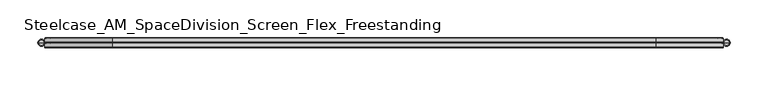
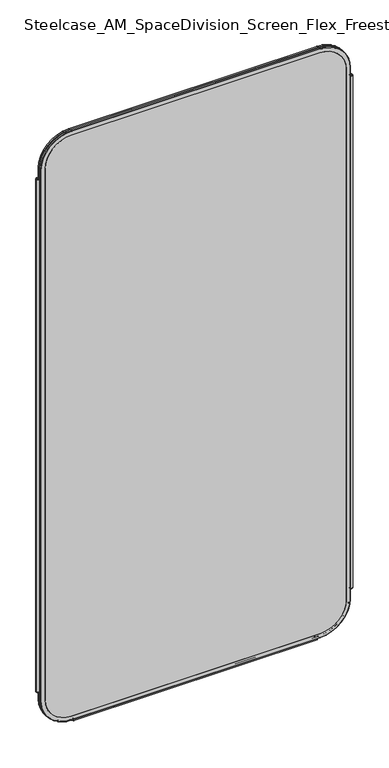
"""IFC4 building model written with IfcOpenShell, lengths in millimetres: furniture geometry, Steelcase_AM_SpaceDivision_Screen_Flex_Freestanding : 71H x 36W."""

from ifc_helpers import new_model, si_unit, point, frame, frame_2d, origin, place, context, project, spatial, polyline, circle_curve, ellipse_curve, trimmed, segment, composite_curve, outline, extrude, source, transform, mapped, element, save
from ifc_brep_helpers import plane_surface, cylinder_surface, revolved_surface, advanced_brep


def steelcase_am_spacedivision_screen_flex_freestanding_69d37450(model_context):
    return source(origin(), model_context, "Body", "SolidModel", [
        advanced_brep(
        [(913.13, 0.0, 1687.83), (906.5294661, 0.0, 1687.83), (909.829733, 0.0, 1687.83), (914.4, 0.0, 1686.56), (905.2594661, 0.0, 1686.56), (914.4, 0.0, 121.92), (905.2594661, 0.0, 121.92), (913.13, 0.0, 120.65), (906.5294661, 0.0, 120.65), (909.829733, 0.0, 120.65)],
        [
            (0, 1, circle_curve(frame((909.829733, 0.0, 1687.83), z_axis=(0.0, 0.0, 1.0), x_axis=(-1.0, 0.0, 0.0)), 3.300267)),
            (1, 2),
            (2, 0),
            (1, 0, circle_curve(frame((909.829733, 0.0, 1687.83), z_axis=(0.0, 0.0, 1.0), x_axis=(-1.0, 0.0, 0.0)), 3.300267)),
            (3, 4, circle_curve(frame((909.829733, 0.0, 1686.56), z_axis=(0.0, 0.0, 1.0), x_axis=(-1.0, 0.0, 0.0)), 4.570267)),
            (4, 1, circle_curve(frame((906.5294661, 0.0, 1686.56), z_axis=(0.0, 1.0, 0.0), x_axis=(1.0, 0.0, 0.0)), 1.27)),
            (0, 3, circle_curve(frame((913.13, 0.0, 1686.56), z_axis=(0.0, 1.0, 0.0), x_axis=(-1.0, 0.0, 0.0)), 1.27)),
            (4, 3, circle_curve(frame((909.829733, 0.0, 1686.56), z_axis=(0.0, 0.0, 1.0), x_axis=(-1.0, 0.0, 0.0)), 4.570267)),
            (5, 6, circle_curve(frame((909.829733, 0.0, 121.92), z_axis=(0.0, 0.0, 1.0), x_axis=(-1.0, 0.0, 0.0)), 4.570267)),
            (6, 4),
            (3, 5),
            (6, 5, circle_curve(frame((909.829733, 0.0, 121.92), z_axis=(0.0, 0.0, 1.0), x_axis=(-1.0, 0.0, 0.0)), 4.570267)),
            (7, 8, circle_curve(frame((909.829733, 0.0, 120.65), z_axis=(0.0, 0.0, 1.0), x_axis=(-1.0, 0.0, 0.0)), 3.300267)),
            (8, 6, circle_curve(frame((906.5294661, 0.0, 121.92), z_axis=(0.0, 1.0, 0.0), x_axis=(1.0, 0.0, 0.0)), 1.27)),
            (5, 7, circle_curve(frame((913.13, 0.0, 121.92), z_axis=(0.0, 1.0, 0.0), x_axis=(-1.0, 0.0, 0.0)), 1.27)),
            (8, 7, circle_curve(frame((909.829733, 0.0, 120.65), z_axis=(0.0, 0.0, 1.0), x_axis=(-1.0, 0.0, 0.0)), 3.300267)),
            (9, 8),
            (7, 9),
        ],
        [
            plane_surface(frame((909.829733, 0.0, 1687.83), z_axis=(0.0, 0.0, 1.0), x_axis=(-1.0, 0.0, 0.0))),
            revolved_surface(trimmed(ellipse_curve(frame((906.5294661, 0.0, 1686.56), z_axis=(0.0, -1.0, 0.0), x_axis=(1.0, 0.0, 0.0)), 1.27, 1.27), [point((906.5294661, 0.0, 1687.83))], [point((905.2594661, 0.0, 1686.56))], True, "CARTESIAN"), (909.829733, 0.0, 112.3021634), (0.0, 0.0, -1.0)),
            cylinder_surface(frame((909.829733, 0.0, 112.3021634), z_axis=(0.0, 0.0, -1.0), x_axis=(-1.0, 0.0, 0.0)), 4.570267),
            revolved_surface(trimmed(ellipse_curve(frame((906.5294661, 0.0, 121.92), z_axis=(0.0, -1.0, 0.0), x_axis=(1.0, 0.0, 0.0)), 1.27, 1.27), [point((905.2594661, 0.0, 121.92))], [point((906.5294661, 0.0, 120.65))], True, "CARTESIAN"), (909.829733, 0.0, 112.3021634), (0.0, 0.0, -1.0)),
            plane_surface(frame((909.829733, 0.0, 120.65), z_axis=(0.0, 0.0, -1.0), x_axis=(-1.0, 0.0, 0.0))),
        ],
        [
            (0, [[1, 2, 3]]),
            (0, [[4, -3, -2]]),
            (1, [[5, 6, -1, 7]]),
            (1, [[8, -7, -4, -6]]),
            (2, [[9, 10, -5, 11]]),
            (2, [[12, -11, -8, -10]]),
            (3, [[13, 14, -9, 15]]),
            (3, [[16, -15, -12, -14]]),
            (4, [[17, -13, 18]]),
            (4, [[-18, -16, -17]]),
        ],
    ),
        advanced_brep(
        [(7.9329041, 0.0, 120.65), (1.232448, 0.0, 120.65), (0.0, 0.0, 121.882448), (9.1653521, 0.0, 121.882448), (4.582676, 0.0, 120.65), (7.8953521, 0.0, 1687.83), (1.27, 0.0, 1687.83), (4.582676, 0.0, 1687.83), (9.1653521, 0.0, 1686.56), (0.0, 0.0, 1686.56)],
        [
            (0, 1, circle_curve(frame((4.582676, 0.0, 120.65), z_axis=(0.0, 0.0, 1.0), x_axis=(-1.0, 0.0, 0.0)), 3.3502281)),
            (1, 2, circle_curve(frame((1.232448, 0.0, 121.882448), z_axis=(0.0, 1.0, 0.0), x_axis=(1.0, 0.0, 0.0)), 1.232448)),
            (2, 3, circle_curve(frame((4.582676, 0.0, 121.882448), z_axis=(0.0, 0.0, -1.0), x_axis=(-1.0, 0.0, 0.0)), 4.582676)),
            (3, 0, circle_curve(frame((7.9329041, 0.0, 121.882448), z_axis=(0.0, 1.0, 0.0), x_axis=(-1.0, 0.0, 0.0)), 1.232448)),
            (1, 0, circle_curve(frame((4.582676, 0.0, 120.65), z_axis=(0.0, 0.0, 1.0), x_axis=(-1.0, 0.0, 0.0)), 3.3502281)),
            (3, 2, circle_curve(frame((4.582676, 0.0, 121.882448), z_axis=(0.0, 0.0, -1.0), x_axis=(-1.0, 0.0, 0.0)), 4.582676)),
            (4, 1),
            (0, 4),
            (5, 6, circle_curve(frame((4.582676, 0.0, 1687.83), z_axis=(0.0, 0.0, 1.0), x_axis=(-1.0, 0.0, 0.0)), 3.312676)),
            (6, 7),
            (7, 5),
            (6, 5, circle_curve(frame((4.582676, 0.0, 1687.83), z_axis=(0.0, 0.0, 1.0), x_axis=(-1.0, 0.0, 0.0)), 3.312676)),
            (8, 9, circle_curve(frame((4.582676, 0.0, 1686.56), z_axis=(0.0, 0.0, 1.0), x_axis=(-1.0, 0.0, 0.0)), 4.582676)),
            (9, 6, circle_curve(frame((1.27, 0.0, 1686.56), z_axis=(0.0, 1.0, 0.0), x_axis=(1.0, 0.0, 0.0)), 1.27)),
            (5, 8, circle_curve(frame((7.8953521, 0.0, 1686.56), z_axis=(0.0, 1.0, 0.0), x_axis=(-1.0, 0.0, 0.0)), 1.27)),
            (9, 8, circle_curve(frame((4.582676, 0.0, 1686.56), z_axis=(0.0, 0.0, 1.0), x_axis=(-1.0, 0.0, 0.0)), 4.582676)),
            (2, 9),
            (8, 3),
        ],
        [
            revolved_surface(trimmed(ellipse_curve(frame((1.232448, 0.0, 121.882448), z_axis=(0.0, -1.0, 0.0), x_axis=(1.0, 0.0, 0.0)), 1.232448, 1.232448), [point((0.0, 0.0, 121.882448))], [point((1.232448, 0.0, 120.65))], True, "CARTESIAN"), (4.582676, 0.0, 110.6453157), (0.0, 0.0, -1.0)),
            plane_surface(frame((4.582676, 0.0, 120.65), z_axis=(0.0, 0.0, -1.0), x_axis=(-1.0, 0.0, 0.0))),
            plane_surface(frame((4.582676, 0.0, 1687.83), z_axis=(0.0, 0.0, 1.0), x_axis=(-1.0, 0.0, 0.0))),
            revolved_surface(trimmed(ellipse_curve(frame((1.27, 0.0, 1686.56), z_axis=(0.0, -1.0, 0.0), x_axis=(1.0, 0.0, 0.0)), 1.27, 1.27), [point((1.27, 0.0, 1687.83))], [point((0.0, 0.0, 1686.56))], True, "CARTESIAN"), (4.582676, 0.0, 110.6453157), (0.0, 0.0, -1.0)),
            cylinder_surface(frame((4.582676, 0.0, 110.6453157), z_axis=(0.0, 0.0, -1.0), x_axis=(-1.0, 0.0, 0.0)), 4.582676),
        ],
        [
            (0, [[1, 2, 3, 4]]),
            (0, [[5, -4, 6, -2]]),
            (1, [[7, -1, 8]]),
            (1, [[-8, -5, -7]]),
            (2, [[9, 10, 11]]),
            (2, [[12, -11, -10]]),
            (3, [[13, 14, -9, 15]]),
            (3, [[16, -15, -12, -14]]),
            (4, [[-3, 17, -13, 18]]),
            (4, [[-6, -18, -16, -17]]),
        ],
    ),
        extrude(outline(composite_curve([segment(trimmed(circle_curve(frame_2d((3.5, 2.4751953)), 2.5), [point((3.5, 4.9751953))], [point((1.4656663, 1.0220998))], False, "CARTESIAN"), True, "CONTINUOUS"), segment(trimmed(circle_curve(frame_2d((0.0, -0.0248047)), 1.8011626), [point((1.4656663, 1.0220998))], [point((-1.4656663, 1.0220998))], True, "CARTESIAN"), True, "CONTINUOUS"), segment(trimmed(circle_curve(frame_2d((-3.5, 2.4751953)), 2.5), [point((-1.4656663, 1.0220998))], [point((-3.5, 4.9751953))], False, "CARTESIAN"), True, "CONTINUOUS"), segment(trimmed(circle_curve(frame_2d((-3.5, 4.4751953)), 0.5), [point((-3.5, 4.9751953))], [point((-3.5, 3.9751953))], False, "CARTESIAN"), True, "CONTINUOUS"), segment(trimmed(circle_curve(frame_2d((-3.5, 2.4751953)), 1.5), [point((-3.5, 3.9751953))], [point((-2.3025096, 1.5718589))], True, "CARTESIAN"), True, "CONTINUOUS"), segment(trimmed(circle_curve(frame_2d((-10.3325937, 7.629417)), 10.0586411), [point((-2.3025096, 1.5718589))], [point((-0.714976, 4.6836248))], True, "CARTESIAN"), True, "CONTINUOUS"), segment(trimmed(circle_curve(frame_2d((0.0, 4.4646339)), 0.7477618), [point((-0.714976, 4.6836248))], [point((0.714976, 4.6836248))], False, "CARTESIAN"), True, "CONTINUOUS"), segment(trimmed(circle_curve(frame_2d((10.3325937, 7.629417)), 10.0586411), [point((0.714976, 4.6836248))], [point((2.3025096, 1.5718589))], True, "CARTESIAN"), True, "CONTINUOUS"), segment(trimmed(circle_curve(frame_2d((3.5, 2.4751953)), 1.5), [point((2.3025096, 1.5718589))], [point((3.5, 3.9751953))], True, "CARTESIAN"), True, "CONTINUOUS"), segment(trimmed(circle_curve(frame_2d((3.5, 4.4751953)), 0.5), [point((3.5, 3.9751953))], [point((3.5, 4.9751953))], False, "CARTESIAN"), True, "CONTINUOUS")], self_intersect=False)), frame((104.1640108, 0.0, 0.0), z_axis=(1.0, 0.0, 0.0), x_axis=(0.0, 1.0, 0.0)), (0.0, 0.0, 1.0), 706.0719784),
        extrude(outline(composite_curve([segment(trimmed(circle_curve(frame_2d((1714.5, 816.3594661)), 76.2), [point((1714.5, 892.5594661))], [point((1790.7, 816.3594661))], False, "CARTESIAN"), True, "CONTINUOUS"), segment(polyline([(1790.7, 816.3594661), (1790.7, 98.0653521)]), True, "CONTINUOUS"), segment(trimmed(circle_curve(frame_2d((1714.5, 98.0653521)), 76.2), [point((1790.7, 98.0653521))], [point((1714.5, 21.8653521))], False, "CARTESIAN"), True, "CONTINUOUS"), segment(polyline([(1714.5, 21.8653521), (93.8996464, 21.8653521)]), True, "CONTINUOUS"), segment(trimmed(circle_curve(frame_2d((93.8996464, 98.0653521)), 76.2), [point((93.8996464, 21.8653521))], [point((17.6996464, 98.0653521))], False, "CARTESIAN"), True, "CONTINUOUS"), segment(polyline([(17.6996464, 98.0653521), (17.6996464, 816.3594661)]), True, "CONTINUOUS"), segment(trimmed(circle_curve(frame_2d((93.8996464, 816.3594661)), 76.2), [point((17.6996464, 816.3594661))], [point((93.8996464, 892.5594661))], False, "CARTESIAN"), True, "CONTINUOUS"), segment(polyline([(93.8996464, 892.5594661), (1714.5, 892.5594661)]), True, "CONTINUOUS")], self_intersect=False)), frame((0.0, -6.477, 0.0), z_axis=(0.0, 1.0, 0.0), x_axis=(0.0, 0.0, 1.0)), (0.0, 0.0, 1.0), 12.954),
        advanced_brep(
        [(98.0653521, -6.477, 1790.7), (21.8653521, -6.477, 1714.5), (21.8653521, 6.477, 1714.5), (98.0653521, 6.477, 1790.7), (98.0653521, -5.715, 1803.4), (9.1653521, -5.715, 1714.5), (9.9273521, -6.477, 1714.5), (98.0653521, -6.477, 1802.638), (98.0653521, -0.8129491, 1803.4), (9.1653521, -0.8129491, 1714.5), (98.0653521, 0.0, 1802.8093579), (9.7559942, 0.0, 1714.5), (98.0653521, 0.8129491, 1803.4), (9.1653521, 0.8129491, 1714.5), (98.0653521, 5.715, 1803.4), (9.1653521, 5.715, 1714.5), (98.0653521, 6.477, 1802.638), (9.9273521, 6.477, 1714.5), (816.3594661, 6.477, 1790.7), (816.3594661, -6.477, 1790.7), (816.3594661, -6.477, 1802.638), (816.3594661, -5.715, 1803.4), (816.3594661, -0.8129491, 1803.4), (816.3594661, 0.0, 1802.8093579), (816.3594661, 0.8129491, 1803.4), (816.3594661, 5.715, 1803.4), (816.3594661, 6.477, 1802.638), (892.5594661, -6.477, 1714.5), (892.5594661, 6.477, 1714.5), (905.2594661, -5.715, 1714.5), (904.4974661, -6.477, 1714.5), (905.2594661, -0.8129491, 1714.5), (904.6688239, 0.0, 1714.5), (905.2594661, 0.8129491, 1714.5), (905.2594661, 5.715, 1714.5), (904.4974661, 6.477, 1714.5), (892.5594661, 6.477, 93.8996464), (892.5594661, -6.477, 93.8996464), (904.4974661, -6.477, 93.8996464), (905.2594661, -5.715, 93.8996464), (905.2594661, -0.8129491, 93.8996464), (904.6688239, 0.0, 93.8996464), (905.2594661, 0.8129491, 93.8996464), (905.2594661, 5.715, 93.8996464), (904.4974661, 6.477, 93.8996464), (816.3594661, -6.477, 17.6996464), (816.3594661, 6.477, 17.6996464), (816.3594661, -5.715, 4.9996464), (816.3594661, -6.477, 5.7616464), (816.3594661, -0.8129491, 4.9996464), (816.3594661, 0.0, 5.5902885), (816.3594661, 0.8129491, 4.9996464), (816.3594661, 5.715, 4.9996464), (816.3594661, 6.477, 5.7616464), (98.0653521, 6.477, 17.6996464), (98.0653521, -6.477, 17.6996464), (98.0653521, -6.477, 5.7616464), (98.0653521, -5.715, 4.9996464), (98.0653521, -0.8129491, 4.9996464), (98.0653521, 0.0, 5.5902885), (98.0653521, 0.8129491, 4.9996464), (98.0653521, 5.715, 4.9996464), (98.0653521, 6.477, 5.7616464), (21.8653521, -6.477, 93.8996464), (21.8653521, 6.477, 93.8996464), (9.1653521, -5.715, 93.8996464), (9.9273521, -6.477, 93.8996464), (9.1653521, -0.8129491, 93.8996464), (9.7559942, 0.0, 93.8996464), (9.1653521, 0.8129491, 93.8996464), (9.1653521, 5.715, 93.8996464), (9.9273521, 6.477, 93.8996464)],
        [
            (0, 1, circle_curve(frame((98.0653521, -6.477, 1714.5), z_axis=(0.0, -1.0, 0.0), x_axis=(-1.0, 0.0, 0.0)), 76.2)),
            (1, 2),
            (2, 3, circle_curve(frame((98.0653521, 6.477, 1714.5), z_axis=(0.0, 1.0, 0.0), x_axis=(-1.0, 0.0, 0.0)), 76.2)),
            (3, 0),
            (4, 5, circle_curve(frame((98.0653521, -5.715, 1714.5), z_axis=(0.0, -1.0, 0.0), x_axis=(-1.0, 0.0, 0.0)), 88.9)),
            (5, 6, circle_curve(frame((9.9273521, -5.715, 1714.5), z_axis=(0.0, 0.0, 1.0), x_axis=(-1.0, 0.0, 0.0)), 0.762)),
            (6, 7, circle_curve(frame((98.0653521, -6.477, 1714.5), z_axis=(0.0, 1.0, 0.0), x_axis=(-1.0, 0.0, 0.0)), 88.138)),
            (7, 4, circle_curve(frame((98.0653521, -5.715, 1802.638), z_axis=(-1.0, 0.0, 0.0), x_axis=(0.0, 0.0, 1.0)), 0.762)),
            (8, 9, circle_curve(frame((98.0653521, -0.8129491, 1714.5), z_axis=(0.0, -1.0, 0.0), x_axis=(-1.0, 0.0, 0.0)), 88.9)),
            (9, 5),
            (4, 8),
            (10, 11, circle_curve(frame((98.0653521, 0.0, 1714.5), z_axis=(0.0, -1.0, 0.0), x_axis=(-1.0, 0.0, 0.0)), 88.3093579)),
            (11, 9, circle_curve(frame((10.0201374, -0.8129491, 1714.5), z_axis=(0.0, 0.0, 1.0), x_axis=(-1.0, 0.0, 0.0)), 0.8547853)),
            (8, 10, circle_curve(frame((98.0653521, -0.8129491, 1802.5452147), z_axis=(-1.0, 0.0, 0.0), x_axis=(0.0, 0.0, 1.0)), 0.8547853)),
            (12, 13, circle_curve(frame((98.0653521, 0.8129491, 1714.5), z_axis=(0.0, -1.0, 0.0), x_axis=(-1.0, 0.0, 0.0)), 88.9)),
            (13, 11, circle_curve(frame((10.0201374, 0.8129491, 1714.5), z_axis=(0.0, 0.0, 1.0), x_axis=(-1.0, 0.0, 0.0)), 0.8547853)),
            (10, 12, circle_curve(frame((98.0653521, 0.8129491, 1802.5452147), z_axis=(-1.0, 0.0, 0.0), x_axis=(0.0, 0.0, 1.0)), 0.8547853)),
            (14, 15, circle_curve(frame((98.0653521, 5.715, 1714.5), z_axis=(0.0, -1.0, 0.0), x_axis=(-1.0, 0.0, 0.0)), 88.9)),
            (15, 13),
            (12, 14),
            (16, 17, circle_curve(frame((98.0653521, 6.477, 1714.5), z_axis=(0.0, -1.0, 0.0), x_axis=(-1.0, 0.0, 0.0)), 88.138)),
            (17, 15, circle_curve(frame((9.9273521, 5.715, 1714.5), z_axis=(0.0, 0.0, 1.0), x_axis=(-1.0, 0.0, 0.0)), 0.762)),
            (14, 16, circle_curve(frame((98.0653521, 5.715, 1802.638), z_axis=(-1.0, 0.0, 0.0), x_axis=(0.0, 0.0, 1.0)), 0.762)),
            (3, 18),
            (18, 19),
            (19, 0),
            (7, 20),
            (20, 21, circle_curve(frame((816.3594661, -5.715, 1802.638), z_axis=(-1.0, 0.0, 0.0), x_axis=(0.0, 0.0, 1.0)), 0.762)),
            (21, 4),
            (21, 22),
            (22, 8),
            (22, 23, circle_curve(frame((816.3594661, -0.8129491, 1802.5452147), z_axis=(-1.0, 0.0, 0.0), x_axis=(0.0, 0.0, 1.0)), 0.8547853)),
            (23, 10),
            (23, 24, circle_curve(frame((816.3594661, 0.8129491, 1802.5452147), z_axis=(-1.0, 0.0, 0.0), x_axis=(0.0, 0.0, 1.0)), 0.8547853)),
            (24, 12),
            (24, 25),
            (25, 14),
            (25, 26, circle_curve(frame((816.3594661, 5.715, 1802.638), z_axis=(-1.0, 0.0, 0.0), x_axis=(0.0, 0.0, 1.0)), 0.762)),
            (26, 16),
            (27, 19, circle_curve(frame((816.3594661, -6.477, 1714.5), z_axis=(0.0, -1.0, 0.0), x_axis=(0.0, 0.0, 1.0)), 76.2)),
            (18, 28, circle_curve(frame((816.3594661, 6.477, 1714.5), z_axis=(0.0, 1.0, 0.0), x_axis=(0.0, 0.0, 1.0)), 76.2)),
            (28, 27),
            (29, 21, circle_curve(frame((816.3594661, -5.715, 1714.5), z_axis=(0.0, -1.0, 0.0), x_axis=(0.0, 0.0, 1.0)), 88.9)),
            (20, 30, circle_curve(frame((816.3594661, -6.477, 1714.5), z_axis=(0.0, 1.0, 0.0), x_axis=(0.0, 0.0, 1.0)), 88.138)),
            (30, 29, circle_curve(frame((904.4974661, -5.715, 1714.5), z_axis=(0.0, 0.0, 1.0), x_axis=(1.0, 0.0, 0.0)), 0.762)),
            (31, 22, circle_curve(frame((816.3594661, -0.8129491, 1714.5), z_axis=(0.0, -1.0, 0.0), x_axis=(0.0, 0.0, 1.0)), 88.9)),
            (29, 31),
            (32, 23, circle_curve(frame((816.3594661, 0.0, 1714.5), z_axis=(0.0, -1.0, 0.0), x_axis=(0.0, 0.0, 1.0)), 88.3093579)),
            (31, 32, circle_curve(frame((904.4046808, -0.8129491, 1714.5), z_axis=(0.0, 0.0, 1.0), x_axis=(1.0, 0.0, 0.0)), 0.8547853)),
            (33, 24, circle_curve(frame((816.3594661, 0.8129491, 1714.5), z_axis=(0.0, -1.0, 0.0), x_axis=(0.0, 0.0, 1.0)), 88.9)),
            (32, 33, circle_curve(frame((904.4046808, 0.8129491, 1714.5), z_axis=(0.0, 0.0, 1.0), x_axis=(1.0, 0.0, 0.0)), 0.8547853)),
            (34, 25, circle_curve(frame((816.3594661, 5.715, 1714.5), z_axis=(0.0, -1.0, 0.0), x_axis=(0.0, 0.0, 1.0)), 88.9)),
            (33, 34),
            (35, 26, circle_curve(frame((816.3594661, 6.477, 1714.5), z_axis=(0.0, -1.0, 0.0), x_axis=(0.0, 0.0, 1.0)), 88.138)),
            (34, 35, circle_curve(frame((904.4974661, 5.715, 1714.5), z_axis=(0.0, 0.0, 1.0), x_axis=(1.0, 0.0, 0.0)), 0.762)),
            (28, 36),
            (36, 37),
            (37, 27),
            (30, 38),
            (38, 39, circle_curve(frame((904.4974661, -5.715, 93.8996464), z_axis=(0.0, 0.0, 1.0), x_axis=(1.0, 0.0, 0.0)), 0.762)),
            (39, 29),
            (39, 40),
            (40, 31),
            (40, 41, circle_curve(frame((904.4046808, -0.8129491, 93.8996464), z_axis=(0.0, 0.0, 1.0), x_axis=(1.0, 0.0, 0.0)), 0.8547853)),
            (41, 32),
            (41, 42, circle_curve(frame((904.4046808, 0.8129491, 93.8996464), z_axis=(0.0, 0.0, 1.0), x_axis=(1.0, 0.0, 0.0)), 0.8547853)),
            (42, 33),
            (42, 43),
            (43, 34),
            (43, 44, circle_curve(frame((904.4974661, 5.715, 93.8996464), z_axis=(0.0, 0.0, 1.0), x_axis=(1.0, 0.0, 0.0)), 0.762)),
            (44, 35),
            (45, 37, circle_curve(frame((816.3594661, -6.477, 93.8996464), z_axis=(0.0, -1.0, 0.0), x_axis=(1.0, 0.0, 0.0)), 76.2)),
            (36, 46, circle_curve(frame((816.3594661, 6.477, 93.8996464), z_axis=(0.0, 1.0, 0.0), x_axis=(1.0, 0.0, 0.0)), 76.2)),
            (46, 45),
            (47, 39, circle_curve(frame((816.3594661, -5.715, 93.8996464), z_axis=(0.0, -1.0, 0.0), x_axis=(1.0, 0.0, 0.0)), 88.9)),
            (38, 48, circle_curve(frame((816.3594661, -6.477, 93.8996464), z_axis=(0.0, 1.0, 0.0), x_axis=(1.0, 0.0, 0.0)), 88.138)),
            (48, 47, circle_curve(frame((816.3594661, -5.715, 5.7616464), z_axis=(1.0, 0.0, 0.0), x_axis=(0.0, 0.0, -1.0)), 0.762)),
            (49, 40, circle_curve(frame((816.3594661, -0.8129491, 93.8996464), z_axis=(0.0, -1.0, 0.0), x_axis=(1.0, 0.0, 0.0)), 88.9)),
            (47, 49),
            (50, 41, circle_curve(frame((816.3594661, 0.0, 93.8996464), z_axis=(0.0, -1.0, 0.0), x_axis=(1.0, 0.0, 0.0)), 88.3093579)),
            (49, 50, circle_curve(frame((816.3594661, -0.8129491, 5.8544317), z_axis=(1.0, 0.0, 0.0), x_axis=(0.0, 0.0, -1.0)), 0.8547853)),
            (51, 42, circle_curve(frame((816.3594661, 0.8129491, 93.8996464), z_axis=(0.0, -1.0, 0.0), x_axis=(1.0, 0.0, 0.0)), 88.9)),
            (50, 51, circle_curve(frame((816.3594661, 0.8129491, 5.8544317), z_axis=(1.0, 0.0, 0.0), x_axis=(0.0, 0.0, -1.0)), 0.8547853)),
            (52, 43, circle_curve(frame((816.3594661, 5.715, 93.8996464), z_axis=(0.0, -1.0, 0.0), x_axis=(1.0, 0.0, 0.0)), 88.9)),
            (51, 52),
            (53, 44, circle_curve(frame((816.3594661, 6.477, 93.8996464), z_axis=(0.0, -1.0, 0.0), x_axis=(1.0, 0.0, 0.0)), 88.138)),
            (52, 53, circle_curve(frame((816.3594661, 5.715, 5.7616464), z_axis=(1.0, 0.0, 0.0), x_axis=(0.0, 0.0, -1.0)), 0.762)),
            (46, 54),
            (54, 55),
            (55, 45),
            (48, 56),
            (56, 57, circle_curve(frame((98.0653521, -5.715, 5.7616464), z_axis=(1.0, 0.0, 0.0), x_axis=(0.0, 0.0, -1.0)), 0.762)),
            (57, 47),
            (57, 58),
            (58, 49),
            (58, 59, circle_curve(frame((98.0653521, -0.8129491, 5.8544317), z_axis=(1.0, 0.0, 0.0), x_axis=(0.0, 0.0, -1.0)), 0.8547853)),
            (59, 50),
            (59, 60, circle_curve(frame((98.0653521, 0.8129491, 5.8544317), z_axis=(1.0, 0.0, 0.0), x_axis=(0.0, 0.0, -1.0)), 0.8547853)),
            (60, 51),
            (60, 61),
            (61, 52),
            (61, 62, circle_curve(frame((98.0653521, 5.715, 5.7616464), z_axis=(1.0, 0.0, 0.0), x_axis=(0.0, 0.0, -1.0)), 0.762)),
            (62, 53),
            (63, 55, circle_curve(frame((98.0653521, -6.477, 93.8996464), z_axis=(0.0, -1.0, 0.0), x_axis=(0.0, 0.0, -1.0)), 76.2)),
            (54, 64, circle_curve(frame((98.0653521, 6.477, 93.8996464), z_axis=(0.0, 1.0, 0.0), x_axis=(0.0, 0.0, -1.0)), 76.2)),
            (64, 63),
            (65, 57, circle_curve(frame((98.0653521, -5.715, 93.8996464), z_axis=(0.0, -1.0, 0.0), x_axis=(0.0, 0.0, -1.0)), 88.9)),
            (56, 66, circle_curve(frame((98.0653521, -6.477, 93.8996464), z_axis=(0.0, 1.0, 0.0), x_axis=(0.0, 0.0, -1.0)), 88.138)),
            (66, 65, circle_curve(frame((9.9273521, -5.715, 93.8996464), z_axis=(0.0, 0.0, -1.0), x_axis=(-1.0, 0.0, 0.0)), 0.762)),
            (67, 58, circle_curve(frame((98.0653521, -0.8129491, 93.8996464), z_axis=(0.0, -1.0, 0.0), x_axis=(0.0, 0.0, -1.0)), 88.9)),
            (65, 67),
            (68, 59, circle_curve(frame((98.0653521, 0.0, 93.8996464), z_axis=(0.0, -1.0, 0.0), x_axis=(0.0, 0.0, -1.0)), 88.3093579)),
            (67, 68, circle_curve(frame((10.0201374, -0.8129491, 93.8996464), z_axis=(0.0, 0.0, -1.0), x_axis=(-1.0, 0.0, 0.0)), 0.8547853)),
            (69, 60, circle_curve(frame((98.0653521, 0.8129491, 93.8996464), z_axis=(0.0, -1.0, 0.0), x_axis=(0.0, 0.0, -1.0)), 88.9)),
            (68, 69, circle_curve(frame((10.0201374, 0.8129491, 93.8996464), z_axis=(0.0, 0.0, -1.0), x_axis=(-1.0, 0.0, 0.0)), 0.8547853)),
            (70, 61, circle_curve(frame((98.0653521, 5.715, 93.8996464), z_axis=(0.0, -1.0, 0.0), x_axis=(0.0, 0.0, -1.0)), 88.9)),
            (69, 70),
            (71, 62, circle_curve(frame((98.0653521, 6.477, 93.8996464), z_axis=(0.0, -1.0, 0.0), x_axis=(0.0, 0.0, -1.0)), 88.138)),
            (70, 71, circle_curve(frame((9.9273521, 5.715, 93.8996464), z_axis=(0.0, 0.0, -1.0), x_axis=(-1.0, 0.0, 0.0)), 0.762)),
            (64, 2),
            (1, 63),
            (6, 66),
            (5, 65),
            (9, 67),
            (11, 68),
            (13, 69),
            (15, 70),
            (17, 71),
        ],
        [
            revolved_surface(polyline([(21.865352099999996, 6.477, 1714.5), (21.865352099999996, -6.477, 1714.5)]), (98.0653521, 0.0, 1714.5), (0.0, 1.0, 0.0)),
            revolved_surface(trimmed(ellipse_curve(frame((9.9273521, -5.715, 1714.5), z_axis=(0.0, 0.0, -1.0), x_axis=(-1.0, 0.0, 0.0)), 0.762, 0.762), [point((9.9273521, -6.477, 1714.5))], [point((9.1653521, -5.715, 1714.5))], True, "CARTESIAN"), (98.0653521, 0.0, 1714.5), (0.0, 1.0, 0.0)),
            cylinder_surface(frame((98.0653521, 0.0, 1714.5), z_axis=(0.0, 1.0, 0.0), x_axis=(-1.0, 0.0, 0.0)), 88.9),
            revolved_surface(trimmed(ellipse_curve(frame((10.0201374, -0.8129491, 1714.5), z_axis=(0.0, 0.0, -1.0), x_axis=(-1.0, 0.0, 0.0)), 0.8547853, 0.8547853), [point((9.1653521, -0.8129491, 1714.5))], [point((9.7559942, 0.0, 1714.5))], True, "CARTESIAN"), (98.0653521, 0.0, 1714.5), (0.0, 1.0, 0.0)),
            revolved_surface(trimmed(ellipse_curve(frame((10.0201374, 0.8129491, 1714.5), z_axis=(0.0, 0.0, -1.0), x_axis=(-1.0, 0.0, 0.0)), 0.8547853, 0.8547853), [point((9.7559942, 0.0, 1714.5))], [point((9.1653521, 0.8129491, 1714.5))], True, "CARTESIAN"), (98.0653521, 0.0, 1714.5), (0.0, 1.0, 0.0)),
            revolved_surface(trimmed(ellipse_curve(frame((9.9273521, 5.715, 1714.5), z_axis=(0.0, 0.0, -1.0), x_axis=(-1.0, 0.0, 0.0)), 0.762, 0.762), [point((9.1653521, 5.715, 1714.5))], [point((9.9273521, 6.477, 1714.5))], True, "CARTESIAN"), (98.0653521, 0.0, 1714.5), (0.0, 1.0, 0.0)),
            plane_surface(frame((98.0653521, 6.477, 1790.7), z_axis=(0.0, 0.0, -1.0), x_axis=(1.0, 0.0, 0.0))),
            cylinder_surface(frame((98.0653521, -5.715, 1802.638), z_axis=(-1.0, 0.0, 0.0), x_axis=(0.0, 0.0, 1.0)), 0.762),
            plane_surface(frame((98.0653521, -5.715, 1803.4), z_axis=(0.0, 0.0, 1.0), x_axis=(1.0, 0.0, 0.0))),
            cylinder_surface(frame((98.0653521, -0.8129491, 1802.5452147), z_axis=(-1.0, 0.0, 0.0), x_axis=(0.0, 0.0, 1.0)), 0.8547853),
            cylinder_surface(frame((98.0653521, 0.8129491, 1802.5452147), z_axis=(-1.0, 0.0, 0.0), x_axis=(0.0, 0.0, 1.0)), 0.8547853),
            plane_surface(frame((98.0653521, 0.8129491, 1803.4), z_axis=(0.0, 0.0, 1.0), x_axis=(1.0, 0.0, 0.0))),
            cylinder_surface(frame((98.0653521, 5.715, 1802.638), z_axis=(-1.0, 0.0, 0.0), x_axis=(0.0, 0.0, 1.0)), 0.762),
            revolved_surface(polyline([(816.3594661, 6.477, 1790.7), (816.3594661, -6.477, 1790.7)]), (816.3594661, 0.0, 1714.5), (0.0, 1.0, 0.0)),
            revolved_surface(trimmed(ellipse_curve(frame((816.3594661, -5.715, 1802.638), z_axis=(-1.0, 0.0, 0.0), x_axis=(0.0, 0.0, 1.0)), 0.762, 0.762), [point((816.3594661, -6.477, 1802.638))], [point((816.3594661, -5.715, 1803.4))], True, "CARTESIAN"), (816.3594661, 0.0, 1714.5), (0.0, 1.0, 0.0)),
            cylinder_surface(frame((816.3594661, 0.0, 1714.5), z_axis=(0.0, 1.0, 0.0), x_axis=(0.0, 0.0, 1.0)), 88.9),
            revolved_surface(trimmed(ellipse_curve(frame((816.3594661, -0.8129491, 1802.5452147), z_axis=(-1.0, 0.0, 0.0), x_axis=(0.0, 0.0, 1.0)), 0.8547853, 0.8547853), [point((816.3594661, -0.8129491, 1803.4))], [point((816.3594661, 0.0, 1802.8093579))], True, "CARTESIAN"), (816.3594661, 0.0, 1714.5), (0.0, 1.0, 0.0)),
            revolved_surface(trimmed(ellipse_curve(frame((816.3594661, 0.8129491, 1802.5452147), z_axis=(-1.0, 0.0, 0.0), x_axis=(0.0, 0.0, 1.0)), 0.8547853, 0.8547853), [point((816.3594661, 0.0, 1802.8093579))], [point((816.3594661, 0.8129491, 1803.4))], True, "CARTESIAN"), (816.3594661, 0.0, 1714.5), (0.0, 1.0, 0.0)),
            revolved_surface(trimmed(ellipse_curve(frame((816.3594661, 5.715, 1802.638), z_axis=(-1.0, 0.0, 0.0), x_axis=(0.0, 0.0, 1.0)), 0.762, 0.762), [point((816.3594661, 5.715, 1803.4))], [point((816.3594661, 6.477, 1802.638))], True, "CARTESIAN"), (816.3594661, 0.0, 1714.5), (0.0, 1.0, 0.0)),
            plane_surface(frame((892.5594661, 6.477, 1714.5), z_axis=(-1.0, 0.0, 0.0), x_axis=(0.0, 0.0, -1.0))),
            cylinder_surface(frame((904.4974661, -5.715, 1714.5), z_axis=(0.0, 0.0, 1.0), x_axis=(1.0, 0.0, 0.0)), 0.762),
            plane_surface(frame((905.2594661, -5.715, 1714.5), z_axis=(1.0, 0.0, 0.0), x_axis=(0.0, 0.0, -1.0))),
            cylinder_surface(frame((904.4046808, -0.8129491, 1714.5), z_axis=(0.0, 0.0, 1.0), x_axis=(1.0, 0.0, 0.0)), 0.8547853),
            cylinder_surface(frame((904.4046808, 0.8129491, 1714.5), z_axis=(0.0, 0.0, 1.0), x_axis=(1.0, 0.0, 0.0)), 0.8547853),
            plane_surface(frame((905.2594661, 0.8129491, 1714.5), z_axis=(1.0, 0.0, 0.0), x_axis=(0.0, 0.0, -1.0))),
            cylinder_surface(frame((904.4974661, 5.715, 1714.5), z_axis=(0.0, 0.0, 1.0), x_axis=(1.0, 0.0, 0.0)), 0.762),
            revolved_surface(polyline([(892.5594661, 6.477, 93.8996464), (892.5594661, -6.477, 93.8996464)]), (816.3594661, 0.0, 93.8996464), (0.0, 1.0, 0.0)),
            revolved_surface(trimmed(ellipse_curve(frame((904.4974661, -5.715, 93.8996464), z_axis=(0.0, 0.0, 1.0), x_axis=(1.0, 0.0, 0.0)), 0.762, 0.762), [point((904.4974661, -6.477, 93.8996464))], [point((905.2594661, -5.715, 93.8996464))], True, "CARTESIAN"), (816.3594661, 0.0, 93.8996464), (0.0, 1.0, 0.0)),
            cylinder_surface(frame((816.3594661, 0.0, 93.8996464), z_axis=(0.0, 1.0, 0.0), x_axis=(1.0, 0.0, 0.0)), 88.9),
            revolved_surface(trimmed(ellipse_curve(frame((904.4046808, -0.8129491, 93.8996464), z_axis=(0.0, 0.0, 1.0), x_axis=(1.0, 0.0, 0.0)), 0.8547853, 0.8547853), [point((905.2594661, -0.8129491, 93.8996464))], [point((904.6688239, 0.0, 93.8996464))], True, "CARTESIAN"), (816.3594661, 0.0, 93.8996464), (0.0, 1.0, 0.0)),
            revolved_surface(trimmed(ellipse_curve(frame((904.4046808, 0.8129491, 93.8996464), z_axis=(0.0, 0.0, 1.0), x_axis=(1.0, 0.0, 0.0)), 0.8547853, 0.8547853), [point((904.6688239, 0.0, 93.8996464))], [point((905.2594661, 0.8129491, 93.8996464))], True, "CARTESIAN"), (816.3594661, 0.0, 93.8996464), (0.0, 1.0, 0.0)),
            revolved_surface(trimmed(ellipse_curve(frame((904.4974661, 5.715, 93.8996464), z_axis=(0.0, 0.0, 1.0), x_axis=(1.0, 0.0, 0.0)), 0.762, 0.762), [point((905.2594661, 5.715, 93.8996464))], [point((904.4974661, 6.477, 93.8996464))], True, "CARTESIAN"), (816.3594661, 0.0, 93.8996464), (0.0, 1.0, 0.0)),
            plane_surface(frame((816.3594661, 6.477, 17.6996464), z_axis=(0.0, 0.0, 1.0), x_axis=(-1.0, 0.0, 0.0))),
            cylinder_surface(frame((816.3594661, -5.715, 5.7616464), z_axis=(1.0, 0.0, 0.0), x_axis=(0.0, 0.0, -1.0)), 0.762),
            plane_surface(frame((816.3594661, -5.715, 4.9996464), z_axis=(0.0, 0.0, -1.0), x_axis=(-1.0, 0.0, 0.0))),
            cylinder_surface(frame((816.3594661, -0.8129491, 5.8544317), z_axis=(1.0, 0.0, 0.0), x_axis=(0.0, 0.0, -1.0)), 0.8547853),
            cylinder_surface(frame((816.3594661, 0.8129491, 5.8544317), z_axis=(1.0, 0.0, 0.0), x_axis=(0.0, 0.0, -1.0)), 0.8547853),
            plane_surface(frame((816.3594661, 0.8129491, 4.9996464), z_axis=(0.0, 0.0, -1.0), x_axis=(-1.0, 0.0, 0.0))),
            cylinder_surface(frame((816.3594661, 5.715, 5.7616464), z_axis=(1.0, 0.0, 0.0), x_axis=(0.0, 0.0, -1.0)), 0.762),
            revolved_surface(polyline([(98.0653521, 6.477, 17.699646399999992), (98.0653521, -6.477, 17.699646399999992)]), (98.0653521, 0.0, 93.8996464), (0.0, 1.0, 0.0)),
            revolved_surface(trimmed(ellipse_curve(frame((98.0653521, -5.715, 5.7616464), z_axis=(1.0, 0.0, 0.0), x_axis=(0.0, 0.0, -1.0)), 0.762, 0.762), [point((98.0653521, -6.477, 5.7616464))], [point((98.0653521, -5.715, 4.9996464))], True, "CARTESIAN"), (98.0653521, 0.0, 93.8996464), (0.0, 1.0, 0.0)),
            cylinder_surface(frame((98.0653521, 0.0, 93.8996464), z_axis=(0.0, 1.0, 0.0), x_axis=(0.0, 0.0, -1.0)), 88.9),
            revolved_surface(trimmed(ellipse_curve(frame((98.0653521, -0.8129491, 5.8544317), z_axis=(1.0, 0.0, 0.0), x_axis=(0.0, 0.0, -1.0)), 0.8547853, 0.8547853), [point((98.0653521, -0.8129491, 4.9996464))], [point((98.0653521, 0.0, 5.5902885))], True, "CARTESIAN"), (98.0653521, 0.0, 93.8996464), (0.0, 1.0, 0.0)),
            revolved_surface(trimmed(ellipse_curve(frame((98.0653521, 0.8129491, 5.8544317), z_axis=(1.0, 0.0, 0.0), x_axis=(0.0, 0.0, -1.0)), 0.8547853, 0.8547853), [point((98.0653521, 0.0, 5.5902885))], [point((98.0653521, 0.8129491, 4.9996464))], True, "CARTESIAN"), (98.0653521, 0.0, 93.8996464), (0.0, 1.0, 0.0)),
            revolved_surface(trimmed(ellipse_curve(frame((98.0653521, 5.715, 5.7616464), z_axis=(1.0, 0.0, 0.0), x_axis=(0.0, 0.0, -1.0)), 0.762, 0.762), [point((98.0653521, 5.715, 4.9996464))], [point((98.0653521, 6.477, 5.7616464))], True, "CARTESIAN"), (98.0653521, 0.0, 93.8996464), (0.0, 1.0, 0.0)),
            plane_surface(frame((21.8653521, 6.477, 93.8996464), z_axis=(1.0, 0.0, 0.0), x_axis=(0.0, 0.0, 1.0))),
            plane_surface(frame((21.8653521, -6.477, 93.8996464), z_axis=(0.0, -1.0, 0.0), x_axis=(0.0, 0.0, 1.0))),
            cylinder_surface(frame((9.9273521, -5.715, 93.8996464), z_axis=(0.0, 0.0, -1.0), x_axis=(-1.0, 0.0, 0.0)), 0.762),
            plane_surface(frame((9.1653521, -5.715, 93.8996464), z_axis=(-1.0, 0.0, 0.0), x_axis=(0.0, 0.0, 1.0))),
            cylinder_surface(frame((10.0201374, -0.8129491, 93.8996464), z_axis=(0.0, 0.0, -1.0), x_axis=(-1.0, 0.0, 0.0)), 0.8547853),
            cylinder_surface(frame((10.0201374, 0.8129491, 93.8996464), z_axis=(0.0, 0.0, -1.0), x_axis=(-1.0, 0.0, 0.0)), 0.8547853),
            plane_surface(frame((9.1653521, 0.8129491, 93.8996464), z_axis=(-1.0, 0.0, 0.0), x_axis=(0.0, 0.0, 1.0))),
            cylinder_surface(frame((9.9273521, 5.715, 93.8996464), z_axis=(0.0, 0.0, -1.0), x_axis=(-1.0, 0.0, 0.0)), 0.762),
            plane_surface(frame((9.9273521, 6.477, 93.8996464), z_axis=(0.0, 1.0, 0.0), x_axis=(0.0, 0.0, 1.0))),
        ],
        [
            (0, [[1, 2, 3, 4]]),
            (1, [[5, 6, 7, 8]]),
            (2, [[9, 10, -5, 11]]),
            (3, [[12, 13, -9, 14]]),
            (4, [[15, 16, -12, 17]]),
            (2, [[18, 19, -15, 20]]),
            (5, [[21, 22, -18, 23]]),
            (6, [[-4, 24, 25, 26]]),
            (7, [[-8, 27, 28, 29]]),
            (8, [[-11, -29, 30, 31]]),
            (9, [[-14, -31, 32, 33]]),
            (10, [[-17, -33, 34, 35]]),
            (11, [[-20, -35, 36, 37]]),
            (12, [[-23, -37, 38, 39]]),
            (13, [[40, -25, 41, 42]]),
            (14, [[43, -28, 44, 45]]),
            (15, [[46, -30, -43, 47]]),
            (16, [[48, -32, -46, 49]]),
            (17, [[50, -34, -48, 51]]),
            (15, [[52, -36, -50, 53]]),
            (18, [[54, -38, -52, 55]]),
            (19, [[-42, 56, 57, 58]]),
            (20, [[-45, 59, 60, 61]]),
            (21, [[-47, -61, 62, 63]]),
            (22, [[-49, -63, 64, 65]]),
            (23, [[-51, -65, 66, 67]]),
            (24, [[-53, -67, 68, 69]]),
            (25, [[-55, -69, 70, 71]]),
            (26, [[72, -57, 73, 74]]),
            (27, [[75, -60, 76, 77]]),
            (28, [[78, -62, -75, 79]]),
            (29, [[80, -64, -78, 81]]),
            (30, [[82, -66, -80, 83]]),
            (28, [[84, -68, -82, 85]]),
            (31, [[86, -70, -84, 87]]),
            (32, [[-74, 88, 89, 90]]),
            (33, [[-77, 91, 92, 93]]),
            (34, [[-79, -93, 94, 95]]),
            (35, [[-81, -95, 96, 97]]),
            (36, [[-83, -97, 98, 99]]),
            (37, [[-85, -99, 100, 101]]),
            (38, [[-87, -101, 102, 103]]),
            (39, [[104, -89, 105, 106]]),
            (40, [[107, -92, 108, 109]]),
            (41, [[110, -94, -107, 111]]),
            (42, [[112, -96, -110, 113]]),
            (43, [[114, -98, -112, 115]]),
            (41, [[116, -100, -114, 117]]),
            (44, [[118, -102, -116, 119]]),
            (45, [[-106, 120, -2, 121]]),
            (46, [[122, -108, -91, -76, -59, -44, -27, -7], [-90, -104, -121, -1, -26, -40, -58, -72]]),
            (47, [[-109, -122, -6, 123]]),
            (48, [[-111, -123, -10, 124]]),
            (49, [[-113, -124, -13, 125]]),
            (50, [[-115, -125, -16, 126]]),
            (51, [[-117, -126, -19, 127]]),
            (52, [[-119, -127, -22, 128]]),
            (53, [[-103, -118, -128, -21, -39, -54, -71, -86], [-120, -105, -88, -73, -56, -41, -24, -3]]),
        ],
    ),
    ])


if __name__ == "__main__":
    model = new_model("IFC4")
    model_context = context("Model", 3, world=origin())
    ifc_project = project(units=[si_unit("LENGTHUNIT", "METRE", prefix="MILLI")], contexts=[model_context])
    site = spatial("IfcSite", under=ifc_project)
    building = spatial("IfcBuilding", under=site)
    placement = place(None, origin())
    steelcase_am_spacedivision_screen_flex_freestanding_shape = steelcase_am_spacedivision_screen_flex_freestanding_69d37450(model_context)
    element("IfcFurniture", 1, ObjectType="Steelcase_AM_SpaceDivision_Screen_Flex_Freestanding : 71H x 36W", at=placement, inside=building, context=model_context, shape_type="MappedRepresentation", body=[
        mapped(steelcase_am_spacedivision_screen_flex_freestanding_shape, transform((0.0, 0.0, 0.0), x_axis=(1.0, 0.0, 0.0), y_axis=(0.0, 1.0, 0.0), z_axis=(0.0, 0.0, 1.0))),
    ])
    save(model, "model.ifc")
